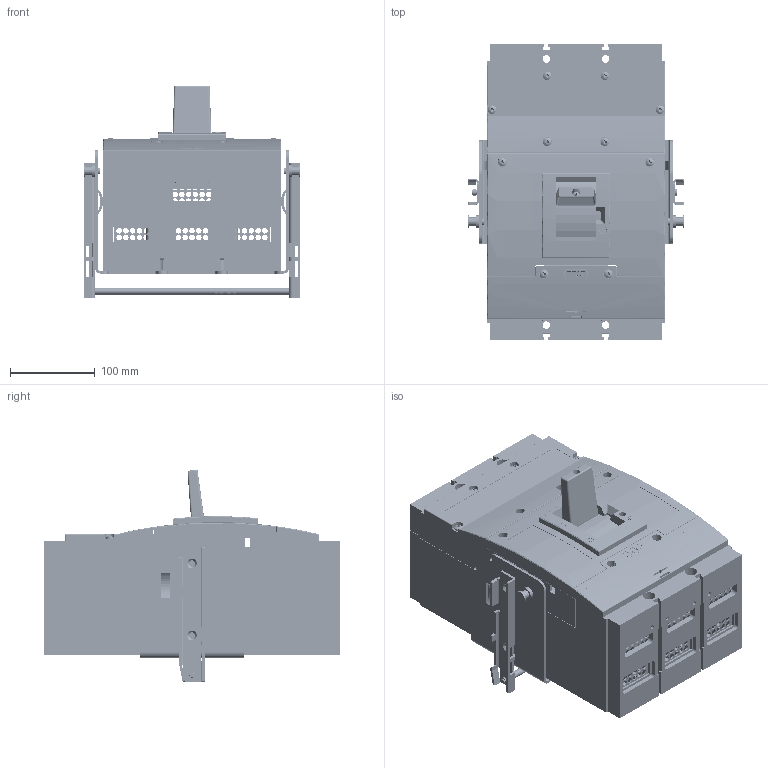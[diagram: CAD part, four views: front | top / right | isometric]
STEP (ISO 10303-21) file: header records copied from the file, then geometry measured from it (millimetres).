
FILE_DESCRIPTION (( 'STEP AP214' ), '1' );
FILE_NAME ('BL____SE320__SE-BL.step', '2011-09-12T07:59:10', ( 'Radek Veselý' ), ( 'Siemens and Partners' ), 'SwSTEP 2.0', 'SolidWorks 2006303', '' );
FILE_SCHEMA (( 'AUTOMOTIVE_DESIGN' ));
Length unit declared in the file: millimetre
Products named in the file (1): BL____SE320__SE-BL
Bounding box: 256 x 350 x 250.52 mm (x, y, z)
Volume: 3541240.9 mm3; surface area: 1441191.8 mm2
Topology: 39 solids, 39 shells, 6250 faces, 17048 edges, 10887 vertices
Faces by surface type: plane 3376, cylinder 2217, cone 230, sphere 158, torus 139, bspline 130
Entity records: 278434 total; most frequent: CARTESIAN_POINT 49271, ORIENTED_EDGE 33838, DIRECTION 33098, EDGE_CURVE 16919, AXIS2_PLACEMENT_3D 11117, VERTEX_POINT 10877, VECTOR 10864, LINE 10864
